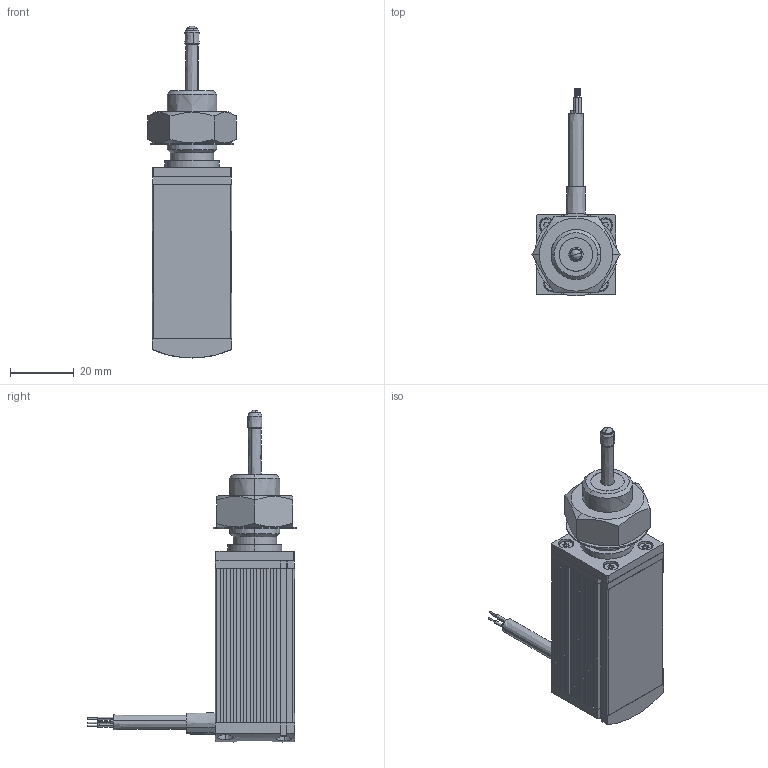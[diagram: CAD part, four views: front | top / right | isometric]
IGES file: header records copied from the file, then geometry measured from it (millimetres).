
Start section: SolidWorks IGES file using NURBS representation for surfaces
Global section: file name: I:\Zeichnungen_EK-VM\ZUR BEARBEITUNG\neu_sz\FTI\FTI_10.IGS; native system: SolidWorks 2008; preprocessor: SolidWorks 2008; author: salzinger; date: 081201.093424; units: millimetre
Bounding box: 27.71 x 65.5 x 104.4 mm (x, y, z)
Surface area: 22677.4 mm2 (no closed solid volume)
Topology: 0 solids, 0 shells, 992 faces, 14660 edges, 19380 vertices
Faces by surface type: bspline 992
